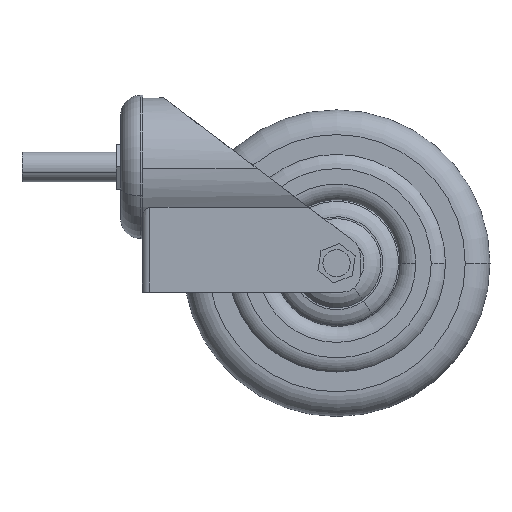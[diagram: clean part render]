
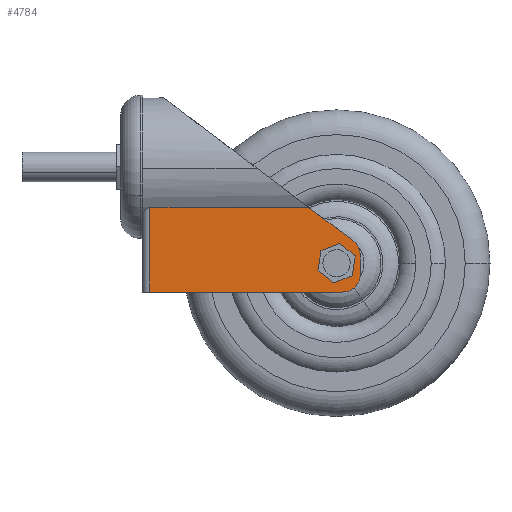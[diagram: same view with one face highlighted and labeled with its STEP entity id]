
A CAD part, front view. The second image highlights one B-rep face of the part: STEP entity #4784.
In plain terms, the highlighted planar face has unit normal (0, -1, 0) as drawn and (1, 0, 0) by its records, which use the part's own axes.
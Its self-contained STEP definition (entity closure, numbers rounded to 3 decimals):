
#11 = FACE_OUTER_BOUND ( 'NONE', #3268, .T. ) ;
#154 = CIRCLE ( 'NONE', #835, 5. ) ;
#155 = ORIENTED_EDGE ( 'NONE', *, *, #2030, .T. ) ;
#219 = VECTOR ( 'NONE', #3507, 1000. ) ;
#320 = DIRECTION ( 'NONE',  ( 0., 0., -1. ) ) ;
#405 = LINE ( 'NONE', #4766, #537 ) ;
#521 = VERTEX_POINT ( 'NONE', #3311 ) ;
#524 = CARTESIAN_POINT ( 'NONE',  ( 12.89, 57., 2.881 ) ) ;
#530 = VECTOR ( 'NONE', #2969, 1000. ) ;
#537 = VECTOR ( 'NONE', #1938, 1000. ) ;
#649 = VERTEX_POINT ( 'NONE', #4572 ) ;
#686 = CARTESIAN_POINT ( 'NONE',  ( 12.89, 57., 87.881 ) ) ;
#720 = CARTESIAN_POINT ( 'NONE',  ( 12.89, 57., -0.119 ) ) ;
#835 = AXIS2_PLACEMENT_3D ( 'NONE', #998, #3841, #1390 ) ;
#853 = VECTOR ( 'NONE', #320, 1000. ) ;
#998 = CARTESIAN_POINT ( 'NONE',  ( 12.89, 45.335, 78.355 ) ) ;
#1050 = ORIENTED_EDGE ( 'NONE', *, *, #1908, .T. ) ;
#1062 = DIRECTION ( 'NONE',  ( 0., 0.602, 0.798 ) ) ;
#1215 = VERTEX_POINT ( 'NONE', #3733 ) ;
#1242 = ORIENTED_EDGE ( 'NONE', *, *, #2244, .F. ) ;
#1318 = VERTEX_POINT ( 'NONE', #1392 ) ;
#1390 = DIRECTION ( 'NONE',  ( 0., 0., 1. ) ) ;
#1392 = CARTESIAN_POINT ( 'NONE',  ( 12.89, 57., 80.881 ) ) ;
#1570 = CARTESIAN_POINT ( 'NONE',  ( 12.89, 41.945, 80.881 ) ) ;
#1658 = EDGE_CURVE ( 'NONE', #4861, #2276, #405, .T. ) ;
#1733 = CARTESIAN_POINT ( 'NONE',  ( 12.89, 36.356, 85.096 ) ) ;
#1764 = EDGE_CURVE ( 'NONE', #2458, #649, #154, .T. ) ;
#1769 = VERTEX_POINT ( 'NONE', #3421 ) ;
#1880 = EDGE_CURVE ( 'NONE', #1318, #1215, #1940, .T. ) ;
#1908 = EDGE_CURVE ( 'NONE', #1318, #1769, #2875, .T. ) ;
#1938 = DIRECTION ( 'NONE',  ( 0., 0., -1. ) ) ;
#1940 = LINE ( 'NONE', #720, #853 ) ;
#1985 = DIRECTION ( 'NONE',  ( 0., 0., 1. ) ) ;
#1990 = DIRECTION ( 'NONE',  ( 1., 0., 0. ) ) ;
#2020 = ORIENTED_EDGE ( 'NONE', *, *, #3704, .T. ) ;
#2030 = EDGE_CURVE ( 'NONE', #1769, #521, #4275, .T. ) ;
#2074 = DIRECTION ( 'NONE',  ( -1., 0., 0. ) ) ;
#2154 = ORIENTED_EDGE ( 'NONE', *, *, #2156, .T. ) ;
#2156 = EDGE_CURVE ( 'NONE', #521, #2743, #4837, .T. ) ;
#2168 = DIRECTION ( 'NONE',  ( 0., 0., 1. ) ) ;
#2244 = EDGE_CURVE ( 'NONE', #4861, #2743, #3513, .T. ) ;
#2276 = VERTEX_POINT ( 'NONE', #3918 ) ;
#2458 = VERTEX_POINT ( 'NONE', #3310 ) ;
#2466 = AXIS2_PLACEMENT_3D ( 'NONE', #4502, #2074, #4915 ) ;
#2547 = LINE ( 'NONE', #524, #530 ) ;
#2551 = EDGE_CURVE ( 'NONE', #2276, #1215, #2547, .T. ) ;
#2577 = DIRECTION ( 'NONE',  ( -1., 0., 0. ) ) ;
#2680 = EDGE_LOOP ( 'NONE', ( #4628, #2020 ) ) ;
#2743 = VERTEX_POINT ( 'NONE', #1733 ) ;
#2875 = CIRCLE ( 'NONE', #4846, 7. ) ;
#2886 = AXIS2_PLACEMENT_3D ( 'NONE', #3819, #2577, #4222 ) ;
#2969 = DIRECTION ( 'NONE',  ( 0., 1., 0. ) ) ;
#2998 = AXIS2_PLACEMENT_3D ( 'NONE', #1570, #4410, #1985 ) ;
#3268 = EDGE_LOOP ( 'NONE', ( #4535, #4799, #4150, #1050, #155, #2154, #1242 ) ) ;
#3310 = CARTESIAN_POINT ( 'NONE',  ( 12.89, 45.335, 83.355 ) ) ;
#3311 = CARTESIAN_POINT ( 'NONE',  ( 12.89, 41.945, 87.881 ) ) ;
#3380 = VECTOR ( 'NONE', #1062, 1000. ) ;
#3407 = PLANE ( 'NONE',  #2886 ) ;
#3421 = CARTESIAN_POINT ( 'NONE',  ( 12.89, 50., 87.881 ) ) ;
#3503 = FACE_BOUND ( 'NONE', #2680, .T. ) ;
#3507 = DIRECTION ( 'NONE',  ( 0., -1., 0. ) ) ;
#3513 = LINE ( 'NONE', #4825, #3380 ) ;
#3704 = EDGE_CURVE ( 'NONE', #649, #2458, #3928, .T. ) ;
#3733 = CARTESIAN_POINT ( 'NONE',  ( 12.89, 57., 2.881 ) ) ;
#3819 = CARTESIAN_POINT ( 'NONE',  ( 12.89, 57., -0.119 ) ) ;
#3841 = DIRECTION ( 'NONE',  ( -1., 0., 0. ) ) ;
#3918 = CARTESIAN_POINT ( 'NONE',  ( 12.89, 22.77, 2.881 ) ) ;
#3928 = CIRCLE ( 'NONE', #2466, 5. ) ;
#4150 = ORIENTED_EDGE ( 'NONE', *, *, #1880, .F. ) ;
#4222 = DIRECTION ( 'NONE',  ( 0., 0., 1. ) ) ;
#4275 = LINE ( 'NONE', #686, #219 ) ;
#4291 = CARTESIAN_POINT ( 'NONE',  ( 12.89, 22.77, 67.084 ) ) ;
#4410 = DIRECTION ( 'NONE',  ( 1., 0., 0. ) ) ;
#4415 = CARTESIAN_POINT ( 'NONE',  ( 12.89, 50., 80.881 ) ) ;
#4502 = CARTESIAN_POINT ( 'NONE',  ( 12.89, 45.335, 78.355 ) ) ;
#4535 = ORIENTED_EDGE ( 'NONE', *, *, #1658, .T. ) ;
#4572 = CARTESIAN_POINT ( 'NONE',  ( 12.89, 45.335, 73.355 ) ) ;
#4628 = ORIENTED_EDGE ( 'NONE', *, *, #1764, .T. ) ;
#4766 = CARTESIAN_POINT ( 'NONE',  ( 12.89, 22.77, 88. ) ) ;
#4784 = ADVANCED_FACE ( 'NONE', ( #3503, #11 ), #3407, .F. ) ;
#4799 = ORIENTED_EDGE ( 'NONE', *, *, #2551, .T. ) ;
#4825 = CARTESIAN_POINT ( 'NONE',  ( 12.89, 2.874, 40.706 ) ) ;
#4837 = CIRCLE ( 'NONE', #2998, 7. ) ;
#4846 = AXIS2_PLACEMENT_3D ( 'NONE', #4415, #1990, #2168 ) ;
#4861 = VERTEX_POINT ( 'NONE', #4291 ) ;
#4915 = DIRECTION ( 'NONE',  ( 0., 0., 1. ) ) ;
